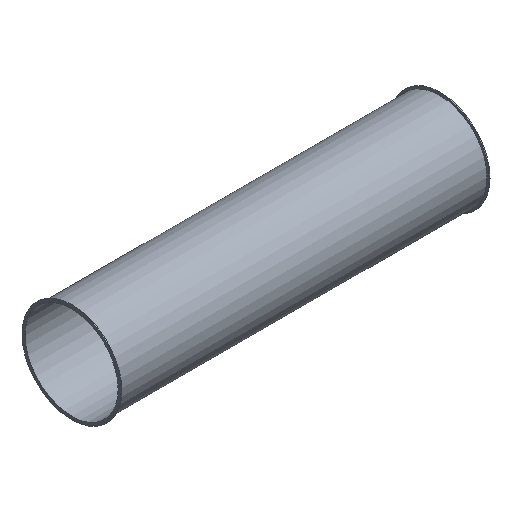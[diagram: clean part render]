
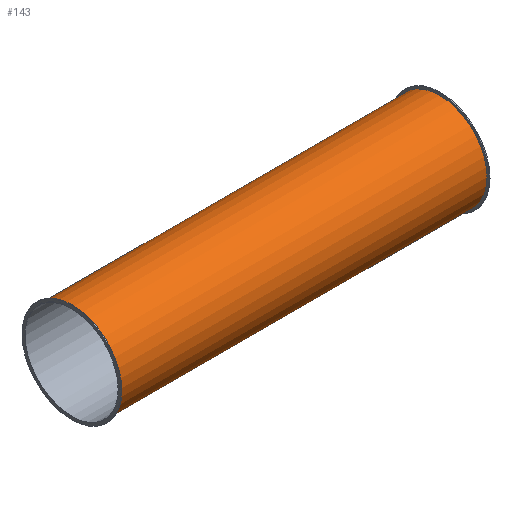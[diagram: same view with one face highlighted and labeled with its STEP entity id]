
A CAD part, isometric view. The second image highlights one B-rep face of the part: STEP entity #143.
In plain terms, the highlighted cylindrical face has radius 126.5 mm (diameter 253 mm), a full revolution.
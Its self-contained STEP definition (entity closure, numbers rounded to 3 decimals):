
#112=CARTESIAN_POINT('',(952.119,2.817,0.0));
#113=VERTEX_POINT('',#112);
#114=CARTESIAN_POINT('',(952.119,129.317,0.0));
#115=DIRECTION('',(-1.0,0.0,0.0));
#116=DIRECTION('',(0.0,-1.0,0.0));
#117=AXIS2_PLACEMENT_3D('',#114,#115,#116);
#118=CIRCLE('',#117,126.5);
#119=EDGE_CURVE('',#113,#113,#118,.T.);
#124=CARTESIAN_POINT('',(461.119,129.317,0.0));
#125=DIRECTION('',(-1.0,0.,0.0));
#126=DIRECTION('',(0.0,-1.0,0.0));
#127=AXIS2_PLACEMENT_3D('',#124,#125,#126);
#128=CYLINDRICAL_SURFACE('',#127,126.5);
#129=CARTESIAN_POINT('',(-29.881,2.817,0.0));
#130=VERTEX_POINT('',#129);
#131=CARTESIAN_POINT('',(-29.881,129.317,0.0));
#132=DIRECTION('',(-1.0,0.0,0.0));
#133=DIRECTION('',(0.0,-1.0,0.0));
#134=AXIS2_PLACEMENT_3D('',#131,#132,#133);
#135=CIRCLE('',#134,126.5);
#136=EDGE_CURVE('',#130,#130,#135,.T.);
#137=ORIENTED_EDGE('',*,*,#136,.F.);
#138=EDGE_LOOP('',(#137));
#139=FACE_OUTER_BOUND('',#138,.T.);
#140=ORIENTED_EDGE('',*,*,#119,.T.);
#141=EDGE_LOOP('',(#140));
#142=FACE_BOUND('',#141,.T.);
#143=ADVANCED_FACE('',(#139,#142),#128,.T.);
